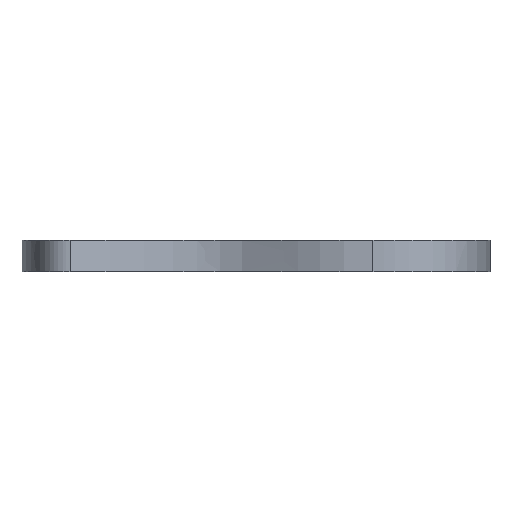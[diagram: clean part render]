
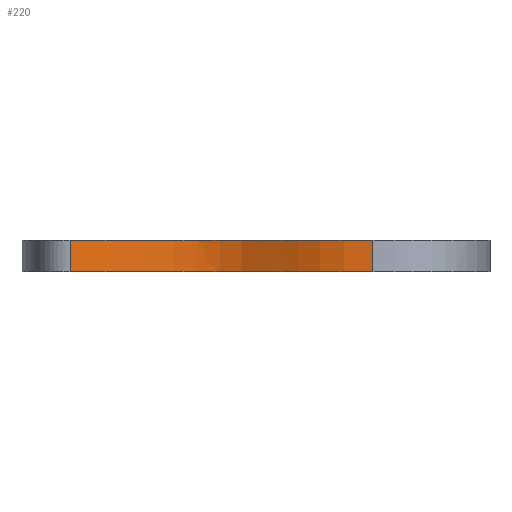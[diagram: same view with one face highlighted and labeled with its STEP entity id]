
A CAD part, left-side view. The second image highlights one B-rep face of the part: STEP entity #220.
In plain terms, the highlighted face is a extrusion surface.
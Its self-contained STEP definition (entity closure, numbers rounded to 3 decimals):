
#32 = SURFACE_OF_LINEAR_EXTRUSION('',#33,#37);
#33 = B_SPLINE_CURVE_WITH_KNOTS('',2,(#34,#35,#36),.UNSPECIFIED.,.F.,.F.
  ,(3,3),(0.,1.),.PIECEWISE_BEZIER_KNOTS.);
#34 = CARTESIAN_POINT('',(-15.,-293.8,0.));
#35 = CARTESIAN_POINT('',(-155.,-293.8,0.));
#36 = CARTESIAN_POINT('',(-155.,-201.3,0.));
#37 = VECTOR('',#38,1.);
#38 = DIRECTION('',(0.,0.,1.));
#59 = VERTEX_POINT('',#60);
#60 = CARTESIAN_POINT('',(-155.,-201.3,-25.));
#74 = PLANE('',#75);
#75 = AXIS2_PLACEMENT_3D('',#76,#77,#78);
#76 = CARTESIAN_POINT('',(-10.772,-105.653,-25.));
#77 = DIRECTION('',(0.,0.,1.));
#78 = DIRECTION('',(1.,0.,0.));
#86 = EDGE_CURVE('',#87,#59,#89,.T.);
#87 = VERTEX_POINT('',#88);
#88 = CARTESIAN_POINT('',(-155.,-201.3,0.));
#89 = SURFACE_CURVE('',#90,(#94,#101),.PCURVE_S1.);
#90 = LINE('',#91,#92);
#91 = CARTESIAN_POINT('',(-155.,-201.3,0.));
#92 = VECTOR('',#93,1.);
#93 = DIRECTION('',(-0.,-0.,-1.));
#94 = PCURVE('',#32,#95);
#95 = DEFINITIONAL_REPRESENTATION('',(#96),#100);
#96 = LINE('',#97,#98);
#97 = CARTESIAN_POINT('',(1.,0.));
#98 = VECTOR('',#99,1.);
#99 = DIRECTION('',(0.,-1.));
#100 = ( GEOMETRIC_REPRESENTATION_CONTEXT(2) 
PARAMETRIC_REPRESENTATION_CONTEXT() REPRESENTATION_CONTEXT('2D SPACE',''
  ) );
#101 = PCURVE('',#102,#110);
#102 = SURFACE_OF_LINEAR_EXTRUSION('',#103,#108);
#103 = B_SPLINE_CURVE_WITH_KNOTS('',3,(#104,#105,#106,#107),
  .UNSPECIFIED.,.F.,.F.,(4,4),(0.,1.),.PIECEWISE_BEZIER_KNOTS.);
#104 = CARTESIAN_POINT('',(-155.,-201.3,0.));
#105 = CARTESIAN_POINT('',(-155.,-108.8,0.));
#106 = CARTESIAN_POINT('',(-70.,-108.8,0.));
#107 = CARTESIAN_POINT('',(-140.,38.1,0.));
#108 = VECTOR('',#109,1.);
#109 = DIRECTION('',(0.,0.,1.));
#110 = DEFINITIONAL_REPRESENTATION('',(#111),#115);
#111 = LINE('',#112,#113);
#112 = CARTESIAN_POINT('',(0.,0.));
#113 = VECTOR('',#114,1.);
#114 = DIRECTION('',(0.,-1.));
#115 = ( GEOMETRIC_REPRESENTATION_CONTEXT(2) 
PARAMETRIC_REPRESENTATION_CONTEXT() REPRESENTATION_CONTEXT('2D SPACE',''
  ) );
#131 = PLANE('',#132);
#132 = AXIS2_PLACEMENT_3D('',#133,#134,#135);
#133 = CARTESIAN_POINT('',(-10.772,-105.653,0.));
#134 = DIRECTION('',(0.,0.,1.));
#135 = DIRECTION('',(1.,0.,0.));
#220 = ADVANCED_FACE('',(#221),#102,.F.);
#221 = FACE_BOUND('',#222,.F.);
#222 = EDGE_LOOP('',(#223,#224,#249,#279));
#223 = ORIENTED_EDGE('',*,*,#86,.T.);
#224 = ORIENTED_EDGE('',*,*,#225,.T.);
#225 = EDGE_CURVE('',#59,#226,#228,.T.);
#226 = VERTEX_POINT('',#227);
#227 = CARTESIAN_POINT('',(-140.,38.1,-25.));
#228 = SURFACE_CURVE('',#229,(#234,#241),.PCURVE_S1.);
#229 = B_SPLINE_CURVE_WITH_KNOTS('',3,(#230,#231,#232,#233),
  .UNSPECIFIED.,.F.,.F.,(4,4),(0.,1.),.PIECEWISE_BEZIER_KNOTS.);
#230 = CARTESIAN_POINT('',(-155.,-201.3,-25.));
#231 = CARTESIAN_POINT('',(-155.,-108.8,-25.));
#232 = CARTESIAN_POINT('',(-70.,-108.8,-25.));
#233 = CARTESIAN_POINT('',(-140.,38.1,-25.));
#234 = PCURVE('',#102,#235);
#235 = DEFINITIONAL_REPRESENTATION('',(#236),#240);
#236 = LINE('',#237,#238);
#237 = CARTESIAN_POINT('',(0.,-25.));
#238 = VECTOR('',#239,1.);
#239 = DIRECTION('',(1.,0.));
#240 = ( GEOMETRIC_REPRESENTATION_CONTEXT(2) 
PARAMETRIC_REPRESENTATION_CONTEXT() REPRESENTATION_CONTEXT('2D SPACE',''
  ) );
#241 = PCURVE('',#74,#242);
#242 = DEFINITIONAL_REPRESENTATION('',(#243),#248);
#243 = B_SPLINE_CURVE_WITH_KNOTS('',3,(#244,#245,#246,#247),
  .UNSPECIFIED.,.F.,.F.,(4,4),(0.,1.),.PIECEWISE_BEZIER_KNOTS.);
#244 = CARTESIAN_POINT('',(-144.228,-95.647));
#245 = CARTESIAN_POINT('',(-144.228,-3.147));
#246 = CARTESIAN_POINT('',(-59.228,-3.147));
#247 = CARTESIAN_POINT('',(-129.228,143.753));
#248 = ( GEOMETRIC_REPRESENTATION_CONTEXT(2) 
PARAMETRIC_REPRESENTATION_CONTEXT() REPRESENTATION_CONTEXT('2D SPACE',''
  ) );
#249 = ORIENTED_EDGE('',*,*,#250,.F.);
#250 = EDGE_CURVE('',#251,#226,#253,.T.);
#251 = VERTEX_POINT('',#252);
#252 = CARTESIAN_POINT('',(-140.,38.1,0.));
#253 = SURFACE_CURVE('',#254,(#258,#265),.PCURVE_S1.);
#254 = LINE('',#255,#256);
#255 = CARTESIAN_POINT('',(-140.,38.1,0.));
#256 = VECTOR('',#257,1.);
#257 = DIRECTION('',(-0.,-0.,-1.));
#258 = PCURVE('',#102,#259);
#259 = DEFINITIONAL_REPRESENTATION('',(#260),#264);
#260 = LINE('',#261,#262);
#261 = CARTESIAN_POINT('',(1.,0.));
#262 = VECTOR('',#263,1.);
#263 = DIRECTION('',(0.,-1.));
#264 = ( GEOMETRIC_REPRESENTATION_CONTEXT(2) 
PARAMETRIC_REPRESENTATION_CONTEXT() REPRESENTATION_CONTEXT('2D SPACE',''
  ) );
#265 = PCURVE('',#266,#273);
#266 = SURFACE_OF_LINEAR_EXTRUSION('',#267,#271);
#267 = B_SPLINE_CURVE_WITH_KNOTS('',2,(#268,#269,#270),.UNSPECIFIED.,.F.
  ,.F.,(3,3),(0.,1.),.PIECEWISE_BEZIER_KNOTS.);
#268 = CARTESIAN_POINT('',(-27.15,76.2,0.));
#269 = CARTESIAN_POINT('',(-140.,76.2,0.));
#270 = CARTESIAN_POINT('',(-140.,38.1,0.));
#271 = VECTOR('',#272,1.);
#272 = DIRECTION('',(0.,0.,1.));
#273 = DEFINITIONAL_REPRESENTATION('',(#274),#278);
#274 = LINE('',#275,#276);
#275 = CARTESIAN_POINT('',(1.,0.));
#276 = VECTOR('',#277,1.);
#277 = DIRECTION('',(0.,-1.));
#278 = ( GEOMETRIC_REPRESENTATION_CONTEXT(2) 
PARAMETRIC_REPRESENTATION_CONTEXT() REPRESENTATION_CONTEXT('2D SPACE',''
  ) );
#279 = ORIENTED_EDGE('',*,*,#280,.F.);
#280 = EDGE_CURVE('',#87,#251,#281,.T.);
#281 = SURFACE_CURVE('',#282,(#287,#294),.PCURVE_S1.);
#282 = B_SPLINE_CURVE_WITH_KNOTS('',3,(#283,#284,#285,#286),
  .UNSPECIFIED.,.F.,.F.,(4,4),(0.,1.),.PIECEWISE_BEZIER_KNOTS.);
#283 = CARTESIAN_POINT('',(-155.,-201.3,0.));
#284 = CARTESIAN_POINT('',(-155.,-108.8,0.));
#285 = CARTESIAN_POINT('',(-70.,-108.8,0.));
#286 = CARTESIAN_POINT('',(-140.,38.1,0.));
#287 = PCURVE('',#102,#288);
#288 = DEFINITIONAL_REPRESENTATION('',(#289),#293);
#289 = LINE('',#290,#291);
#290 = CARTESIAN_POINT('',(0.,0.));
#291 = VECTOR('',#292,1.);
#292 = DIRECTION('',(1.,0.));
#293 = ( GEOMETRIC_REPRESENTATION_CONTEXT(2) 
PARAMETRIC_REPRESENTATION_CONTEXT() REPRESENTATION_CONTEXT('2D SPACE',''
  ) );
#294 = PCURVE('',#131,#295);
#295 = DEFINITIONAL_REPRESENTATION('',(#296),#301);
#296 = B_SPLINE_CURVE_WITH_KNOTS('',3,(#297,#298,#299,#300),
  .UNSPECIFIED.,.F.,.F.,(4,4),(0.,1.),.PIECEWISE_BEZIER_KNOTS.);
#297 = CARTESIAN_POINT('',(-144.228,-95.647));
#298 = CARTESIAN_POINT('',(-144.228,-3.147));
#299 = CARTESIAN_POINT('',(-59.228,-3.147));
#300 = CARTESIAN_POINT('',(-129.228,143.753));
#301 = ( GEOMETRIC_REPRESENTATION_CONTEXT(2) 
PARAMETRIC_REPRESENTATION_CONTEXT() REPRESENTATION_CONTEXT('2D SPACE',''
  ) );
